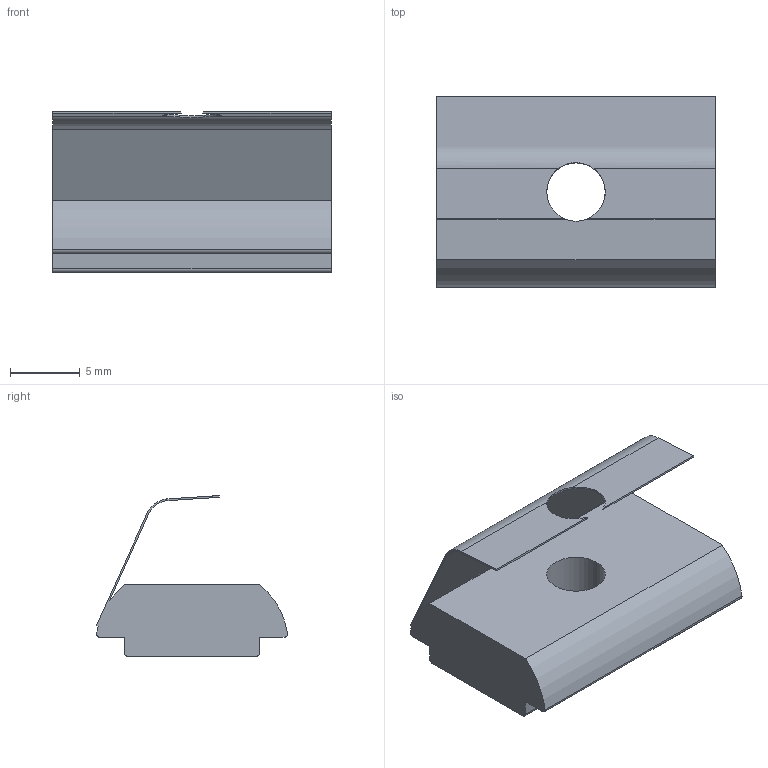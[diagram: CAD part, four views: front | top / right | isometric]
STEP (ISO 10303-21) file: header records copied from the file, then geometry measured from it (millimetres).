
FILE_DESCRIPTION((''),'2;1');
FILE_NAME('205505','2023-02-28T',('jenni.wallner'),(''),'PRO/ENGINEER BY PARAMETRIC TECHNOLOGY CORPORATION, 2012420','PRO/ENGINEER BY PARAMETRIC TECHNOLOGY CORPORATION, 2012420','');
FILE_SCHEMA(('CONFIG_CONTROL_DESIGN'));
Length unit declared in the file: inch
Products named in the file (1): 205505
Bounding box: 20 x 13.73 x 11.56 mm (x, y, z)
Volume: 1164.8 mm3; surface area: 1328.3 mm2
Topology: 1 solids, 1 shells, 31 faces, 88 edges, 59 vertices
Faces by surface type: plane 17, cylinder 14
Entity records: 1087 total; most frequent: CARTESIAN_POINT 232, ORIENTED_EDGE 176, DIRECTION 161, EDGE_CURVE 88, VERTEX_POINT 59, AXIS2_PLACEMENT_3D 54, VECTOR 53, LINE 53
